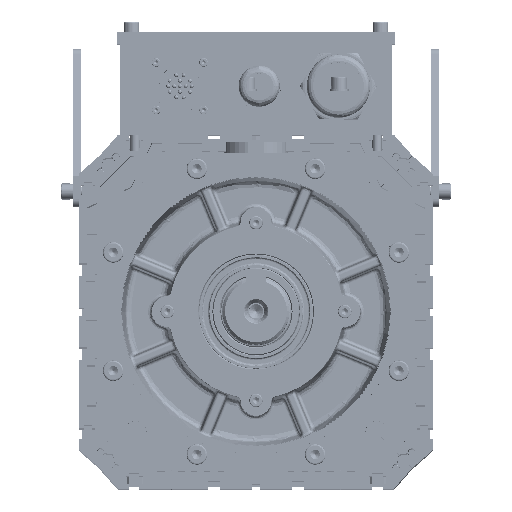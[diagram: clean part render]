
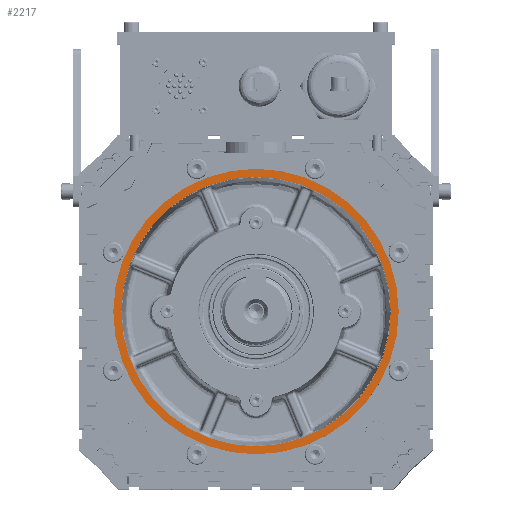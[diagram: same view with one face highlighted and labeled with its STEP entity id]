
A CAD part, top view. The second image highlights one B-rep face of the part: STEP entity #2217.
In plain terms, the highlighted planar face has unit normal (0, 0, 1) as drawn and (0, 0, -1) by its records, which use the part's own axes.
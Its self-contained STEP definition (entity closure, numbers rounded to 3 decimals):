
#2217 = ADVANCED_FACE ( 'NONE', ( #120267, #188711 ), #182996, .F. ) ;
#3578 = ORIENTED_EDGE ( 'NONE', *, *, #97930, .F. ) ;
#37863 = CARTESIAN_POINT ( 'NONE',  ( -28.364, -115.305, 205. ) ) ;
#40615 = DIRECTION ( 'NONE',  ( -1., 0., 0. ) ) ;
#41247 = AXIS2_PLACEMENT_3D ( 'NONE', #37863, #139618, #168965 ) ;
#43367 = DIRECTION ( 'NONE',  ( -1., 0., 0. ) ) ;
#46972 = EDGE_LOOP ( 'NONE', ( #3578, #111496 ) ) ;
#63785 = DIRECTION ( 'NONE',  ( 0., 0., -1. ) ) ;
#68073 = EDGE_LOOP ( 'NONE', ( #108396, #77623 ) ) ;
#71152 = CIRCLE ( 'NONE', #105590, 90. ) ;
#77623 = ORIENTED_EDGE ( 'NONE', *, *, #159711, .F. ) ;
#85961 = DIRECTION ( 'NONE',  ( 0., 0., 1. ) ) ;
#97930 = EDGE_CURVE ( 'NONE', #163384, #99843, #141709, .T. ) ;
#99843 = VERTEX_POINT ( 'NONE', #165760 ) ;
#105558 = CARTESIAN_POINT ( 'NONE',  ( -113.364, -25.305, 205. ) ) ;
#105590 = AXIS2_PLACEMENT_3D ( 'NONE', #115111, #85961, #43367 ) ;
#105967 = VERTEX_POINT ( 'NONE', #154444 ) ;
#106620 = CIRCLE ( 'NONE', #158155, 90. ) ;
#107645 = CIRCLE ( 'NONE', #117903, 85. ) ;
#108396 = ORIENTED_EDGE ( 'NONE', *, *, #113050, .F. ) ;
#111496 = ORIENTED_EDGE ( 'NONE', *, *, #121137, .F. ) ;
#113050 = EDGE_CURVE ( 'NONE', #151501, #105967, #106620, .T. ) ;
#115111 = CARTESIAN_POINT ( 'NONE',  ( -28.364, -25.305, 205. ) ) ;
#117903 = AXIS2_PLACEMENT_3D ( 'NONE', #134876, #63785, #165412 ) ;
#120267 = FACE_OUTER_BOUND ( 'NONE', #68073, .T. ) ;
#121137 = EDGE_CURVE ( 'NONE', #99843, #163384, #107645, .T. ) ;
#128209 = DIRECTION ( 'NONE',  ( -1., 0., 0. ) ) ;
#130102 = DIRECTION ( 'NONE',  ( 0., 0., 1. ) ) ;
#134876 = CARTESIAN_POINT ( 'NONE',  ( -28.364, -25.305, 205. ) ) ;
#139618 = DIRECTION ( 'NONE',  ( 0., 0., 1. ) ) ;
#141709 = CIRCLE ( 'NONE', #141955, 85. ) ;
#141955 = AXIS2_PLACEMENT_3D ( 'NONE', #169173, #185672, #40615 ) ;
#144368 = CARTESIAN_POINT ( 'NONE',  ( -118.364, -25.305, 205. ) ) ;
#151501 = VERTEX_POINT ( 'NONE', #144368 ) ;
#154444 = CARTESIAN_POINT ( 'NONE',  ( 61.636, -25.305, 205. ) ) ;
#158155 = AXIS2_PLACEMENT_3D ( 'NONE', #172797, #130102, #128209 ) ;
#159711 = EDGE_CURVE ( 'NONE', #105967, #151501, #71152, .T. ) ;
#163384 = VERTEX_POINT ( 'NONE', #105558 ) ;
#165412 = DIRECTION ( 'NONE',  ( -1., 0., 0. ) ) ;
#165760 = CARTESIAN_POINT ( 'NONE',  ( 56.636, -25.305, 205. ) ) ;
#168965 = DIRECTION ( 'NONE',  ( 1., 0., 0. ) ) ;
#169173 = CARTESIAN_POINT ( 'NONE',  ( -28.364, -25.305, 205. ) ) ;
#172797 = CARTESIAN_POINT ( 'NONE',  ( -28.364, -25.305, 205. ) ) ;
#182996 = PLANE ( 'NONE',  #41247 ) ;
#185672 = DIRECTION ( 'NONE',  ( 0., 0., -1. ) ) ;
#188711 = FACE_BOUND ( 'NONE', #46972, .T. ) ;
